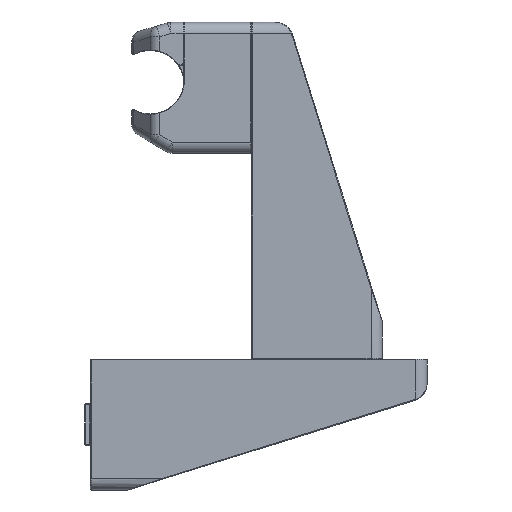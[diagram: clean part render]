
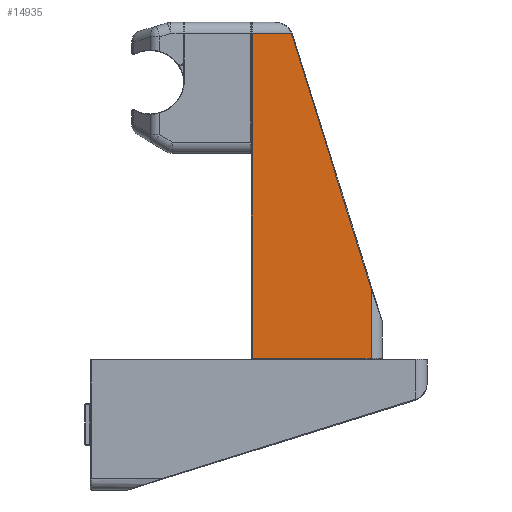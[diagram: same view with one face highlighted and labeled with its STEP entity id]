
A CAD part, front view. The second image highlights one B-rep face of the part: STEP entity #14935.
In plain terms, the highlighted planar face has unit normal (0, -1, 0).
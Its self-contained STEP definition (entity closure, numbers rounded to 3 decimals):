
#629=PLANE('',#16331);
#2150=LINE('',#26463,#3594);
#2151=LINE('',#26467,#3595);
#2156=LINE('',#26499,#3600);
#2157=LINE('',#26501,#3601);
#2158=LINE('',#26504,#3602);
#3594=VECTOR('',#20334,10.);
#3595=VECTOR('',#20339,10.);
#3600=VECTOR('',#20384,10.);
#3601=VECTOR('',#20385,10.);
#3602=VECTOR('',#20388,10.);
#4730=FACE_OUTER_BOUND('',#5671,.T.);
#5671=EDGE_LOOP('',(#13407,#13408,#13409,#13410,#13411,#13412));
#6180=CIRCLE('',#16332,4.8);
#7399=VERTEX_POINT('',#26457);
#7400=VERTEX_POINT('',#26461);
#7401=VERTEX_POINT('',#26465);
#7408=VERTEX_POINT('',#26498);
#7409=VERTEX_POINT('',#26500);
#7410=VERTEX_POINT('',#26502);
#9400=EDGE_CURVE('',#7400,#7399,#2150,.T.);
#9402=EDGE_CURVE('',#7399,#7401,#2151,.T.);
#9417=EDGE_CURVE('',#7408,#7400,#2156,.T.);
#9418=EDGE_CURVE('',#7409,#7408,#2157,.T.);
#9419=EDGE_CURVE('',#7410,#7409,#6180,.T.);
#9420=EDGE_CURVE('',#7401,#7410,#2158,.T.);
#13407=ORIENTED_EDGE('',*,*,#9402,.F.);
#13408=ORIENTED_EDGE('',*,*,#9400,.F.);
#13409=ORIENTED_EDGE('',*,*,#9417,.F.);
#13410=ORIENTED_EDGE('',*,*,#9418,.F.);
#13411=ORIENTED_EDGE('',*,*,#9419,.F.);
#13412=ORIENTED_EDGE('',*,*,#9420,.F.);
#14935=ADVANCED_FACE('',(#4730),#629,.T.);
#16331=AXIS2_PLACEMENT_3D('',#26497,#20382,#20383);
#16332=AXIS2_PLACEMENT_3D('',#26503,#20386,#20387);
#20334=DIRECTION('',(-1.,0.,0.));
#20339=DIRECTION('',(0.,0.,1.));
#20382=DIRECTION('center_axis',(0.,-1.,0.));
#20383=DIRECTION('ref_axis',(0.,0.,-1.));
#20384=DIRECTION('',(0.,0.,-1.));
#20385=DIRECTION('',(0.298,0.,-0.954));
#20386=DIRECTION('center_axis',(0.,1.,0.));
#20387=DIRECTION('ref_axis',(0.937,0.,0.35));
#20388=DIRECTION('',(1.,0.,0.));
#26457=CARTESIAN_POINT('',(0.2,0.,0.2));
#26461=CARTESIAN_POINT('',(32.,0.,0.2));
#26463=CARTESIAN_POINT('',(26.25,0.,0.2));
#26465=CARTESIAN_POINT('',(0.2,0.,87.));
#26467=CARTESIAN_POINT('',(0.2,0.,0.));
#26497=CARTESIAN_POINT('Origin',(35.,0.,0.));
#26498=CARTESIAN_POINT('',(32.,0.,18.929));
#26499=CARTESIAN_POINT('',(32.,0.,0.));
#26500=CARTESIAN_POINT('',(10.906,0.,86.432));
#26501=CARTESIAN_POINT('',(23.733,0.,45.385));
#26502=CARTESIAN_POINT('',(10.688,0.,87.));
#26503=CARTESIAN_POINT('Origin',(6.324,0.,85.));
#26504=CARTESIAN_POINT('',(26.25,0.,87.));
